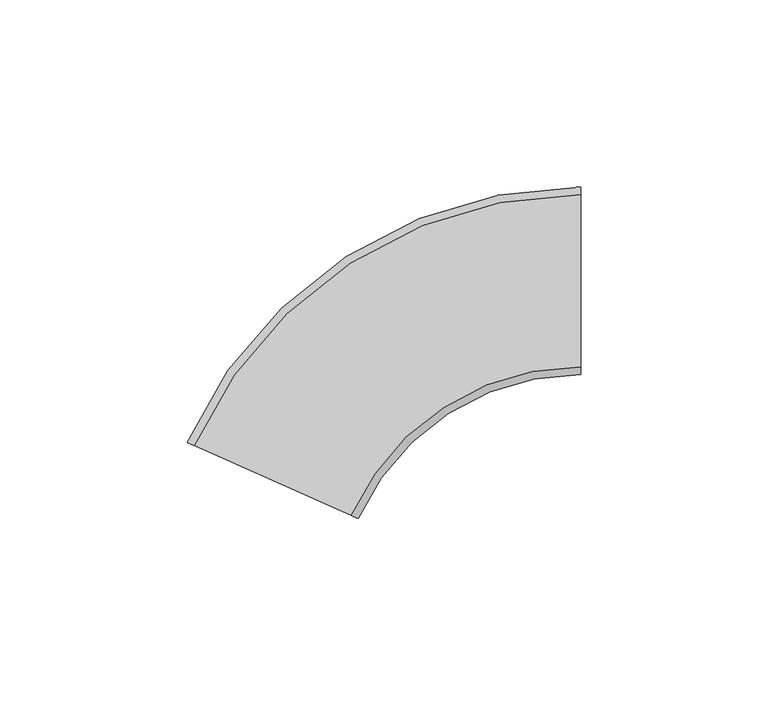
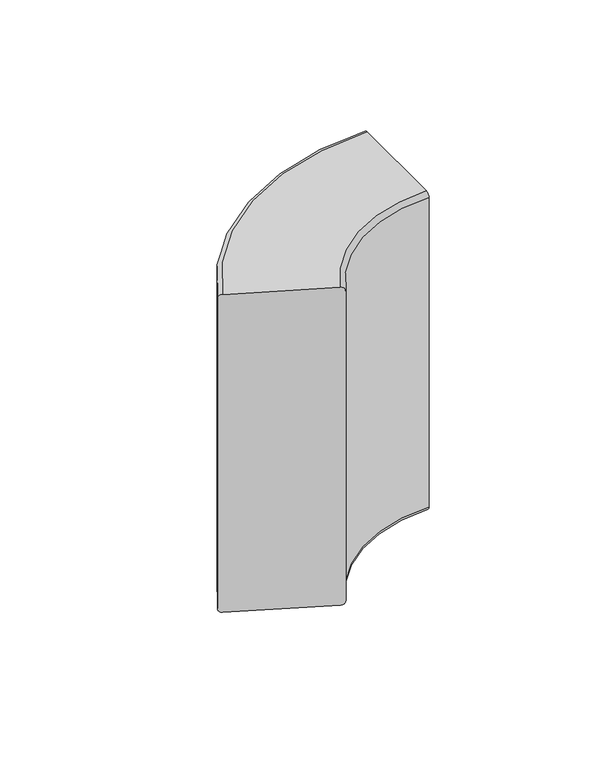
"""IFC4 building model written with IfcOpenShell, lengths in millimetres: duct fitting geometry, Угол внутренний переменный от 80° до 100° - для кабель-каналов DLP - белый : Угол внутренний переменный от 60° до 120° - для кабель-каналов DLP 50х150 - белый."""

from ifc_helpers import new_model, si_unit, point, frame, origin, place, context, project, spatial, polyline, circle_curve, ellipse_curve, trimmed, source, transform, mapped, element, save
from ifc_brep_helpers import plane_surface, cylinder_surface, revolved_surface, advanced_brep


def duct_fitting_362536db(model_context):
    return source(origin(), model_context, "Body", "AdvancedBrep", [
        advanced_brep(
        [(-13.2306367, -80.6450572, 75.0), (-15.0577276, -79.8315839, 73.0), (-15.0577276, -79.8315839, -73.0), (-13.2306367, -80.6450572, -75.0), (28.7924543, -99.3549428, -75.0), (30.6195453, -100.1684161, -73.0), (30.6195453, -100.1684161, 73.0), (28.7924543, -99.3549428, 75.0), (90.0, -13.6062979, 75.0), (90.0, -59.6062979, 75.0), (90.0, -61.6062979, 73.0), (90.0, -61.6062979, -73.0), (90.0, -59.6062979, -75.0), (90.0, -13.6062979, -75.0), (90.0, -11.6062979, -73.0), (90.0, -11.6062979, 73.0)],
        [
            (0, 1, circle_curve(frame((-13.2306367, -80.6450572, 73.0), z_axis=(-0.40673664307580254, -0.9135454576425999, 0.0), x_axis=(-0.9135454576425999, 0.40673664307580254, 0.0)), 2.0)),
            (1, 2),
            (2, 3, circle_curve(frame((-13.2306367, -80.6450572, -73.0), z_axis=(-0.40673664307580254, -0.9135454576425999, 0.0), x_axis=(-0.9135454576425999, 0.40673664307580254, 0.0)), 2.0)),
            (3, 4),
            (4, 5, circle_curve(frame((28.7924543, -99.3549428, -73.0), z_axis=(-0.40673664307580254, -0.9135454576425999, 0.0), x_axis=(-0.9135454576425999, 0.40673664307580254, 0.0)), 2.0)),
            (5, 6),
            (6, 7, circle_curve(frame((28.7924543, -99.3549428, 73.0), z_axis=(-0.40673664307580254, -0.9135454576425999, 0.0), x_axis=(-0.9135454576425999, 0.40673664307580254, 0.0)), 2.0)),
            (7, 0),
            (8, 9),
            (9, 10, circle_curve(frame((90.0, -59.6062979, 73.0), z_axis=(1.0, 0.0, 0.0), x_axis=(0.0, 1.0, 0.0)), 2.0)),
            (10, 11),
            (11, 12, circle_curve(frame((90.0, -59.6062979, -73.0), z_axis=(1.0, 0.0, 0.0), x_axis=(0.0, 1.0, 0.0)), 2.0)),
            (12, 13),
            (13, 14, circle_curve(frame((90.0, -13.6062979, -73.0), z_axis=(1.0, 0.0, 0.0), x_axis=(0.0, 1.0, 0.0)), 2.0)),
            (14, 15),
            (15, 8, circle_curve(frame((90.0, -13.6062979, 73.0), z_axis=(1.0, 0.0, 0.0), x_axis=(0.0, 1.0, 0.0)), 2.0)),
            (15, 1, circle_curve(frame((90.0, -126.6062979, 73.0), z_axis=(0.0, 0.0, 1.0), x_axis=(-0.9135454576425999, 0.4067366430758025, 0.0)), 115.0)),
            (0, 8, circle_curve(frame((90.0, -126.6062979, 75.0), z_axis=(0.0, 0.0, -1.0), x_axis=(-0.9135454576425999, 0.4067366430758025, 0.0)), 113.0)),
            (14, 2, circle_curve(frame((90.0, -126.6062979, -73.0), z_axis=(0.0, 0.0, 1.0), x_axis=(-0.9135454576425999, 0.4067366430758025, 0.0)), 115.0)),
            (13, 3, circle_curve(frame((90.0, -126.6062979, -75.0), z_axis=(0.0, 0.0, 1.0), x_axis=(-0.9135454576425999, 0.4067366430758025, 0.0)), 113.0)),
            (12, 4, circle_curve(frame((90.0, -126.6062979, -75.0), z_axis=(0.0, 0.0, 1.0), x_axis=(-0.9135454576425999, 0.4067366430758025, 0.0)), 67.0)),
            (11, 5, circle_curve(frame((90.0, -126.6062979, -73.0), z_axis=(0.0, 0.0, 1.0), x_axis=(-0.9135454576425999, 0.4067366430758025, 0.0)), 65.0)),
            (10, 6, circle_curve(frame((90.0, -126.6062979, 73.0), z_axis=(0.0, 0.0, 1.0), x_axis=(-0.9135454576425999, 0.4067366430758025, 0.0)), 65.0)),
            (9, 7, circle_curve(frame((90.0, -126.6062979, 75.0), z_axis=(0.0, 0.0, 1.0), x_axis=(-0.9135454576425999, 0.4067366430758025, 0.0)), 67.0)),
        ],
        [
            plane_surface(frame((7.7809088, -90.0, 0.0), z_axis=(-0.40673664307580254, -0.9135454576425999, 0.0), x_axis=(0.0, 0.0, 1.0))),
            plane_surface(frame((90.0, -36.6062979, 0.0), z_axis=(1.0, 0.0, 0.0), x_axis=(0.0, 0.0, 1.0))),
            revolved_surface(trimmed(ellipse_curve(frame((-13.2306367, -80.6450572, 73.0), z_axis=(-0.40673664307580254, -0.9135454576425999, 0.0), x_axis=(-0.9135454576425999, 0.40673664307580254, 0.0)), 2.0, 2.0), [point((-13.2306367, -80.6450572, 75.0))], [point((-15.0577276, -79.8315839, 73.0))], True, "CARTESIAN"), (90.0, -126.6062979, 0.0), (0.0, 0.0, -1.0)),
            cylinder_surface(frame((90.0, -126.6062979, 0.0), z_axis=(0.0, 0.0, -1.0), x_axis=(-0.9135454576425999, 0.4067366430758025, 0.0)), 115.0),
            revolved_surface(trimmed(ellipse_curve(frame((-13.2306367, -80.6450572, -73.0), z_axis=(-0.40673664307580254, -0.9135454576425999, 0.0), x_axis=(-0.9135454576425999, 0.40673664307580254, 0.0)), 2.0, 2.0), [point((-15.0577276, -79.8315839, -73.0))], [point((-13.2306367, -80.6450572, -75.0))], True, "CARTESIAN"), (90.0, -126.6062979, 0.0), (0.0, 0.0, -1.0)),
            plane_surface(frame((90.0, -126.6062979, -75.0), z_axis=(0.0, 0.0, -1.0), x_axis=(-0.9135454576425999, 0.4067366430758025, 0.0))),
            revolved_surface(trimmed(ellipse_curve(frame((28.7924543, -99.3549428, -73.0), z_axis=(-0.40673664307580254, -0.9135454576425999, 0.0), x_axis=(-0.9135454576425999, 0.40673664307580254, 0.0)), 2.0, 2.0), [point((28.7924543, -99.3549428, -75.0))], [point((30.6195453, -100.1684161, -73.0))], True, "CARTESIAN"), (90.0, -126.6062979, 0.0), (0.0, 0.0, -1.0)),
            revolved_surface(polyline([(30.61954525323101, -100.16841610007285, -73.0), (30.61954525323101, -100.16841610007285, 73.0)]), (90.0, -126.6062979, 0.0), (0.0, 0.0, -1.0)),
            revolved_surface(trimmed(ellipse_curve(frame((28.7924543, -99.3549428, 73.0), z_axis=(-0.40673664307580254, -0.9135454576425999, 0.0), x_axis=(-0.9135454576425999, 0.40673664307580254, 0.0)), 2.0, 2.0), [point((30.6195453, -100.1684161, 73.0))], [point((28.7924543, -99.3549428, 75.0))], True, "CARTESIAN"), (90.0, -126.6062979, 0.0), (0.0, 0.0, -1.0)),
            plane_surface(frame((90.0, -126.6062979, 75.0), z_axis=(0.0, 0.0, 1.0), x_axis=(-0.9135454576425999, 0.4067366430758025, 0.0))),
        ],
        [
            (0, [[1, 2, 3, 4, 5, 6, 7, 8]]),
            (1, [[9, 10, 11, 12, 13, 14, 15, 16]]),
            (2, [[17, -1, 18, -16]]),
            (3, [[19, -2, -17, -15]]),
            (4, [[20, -3, -19, -14]]),
            (5, [[21, -4, -20, -13]]),
            (6, [[22, -5, -21, -12]]),
            (7, [[23, -6, -22, -11]]),
            (8, [[24, -7, -23, -10]]),
            (9, [[-18, -8, -24, -9]]),
        ],
    ),
    ])


if __name__ == "__main__":
    model = new_model("IFC4")
    model_context = context("Model", 3, world=origin())
    ifc_project = project(units=[si_unit("LENGTHUNIT", "METRE", prefix="MILLI")], contexts=[model_context])
    site = spatial("IfcSite", under=ifc_project)
    building = spatial("IfcBuilding", under=site)
    placement = place(None, origin())
    duct_fitting_shape = duct_fitting_362536db(model_context)
    element("IfcDuctFitting", 1, ObjectType="Угол внутренний переменный от 80° до 100° - для кабель-каналов DLP - белый : Угол внутренний переменный от 60° до 120° - для кабель-каналов DLP 50х150 - белый", at=placement, inside=building, context=model_context, shape_type="MappedRepresentation", body=[
        mapped(duct_fitting_shape, transform((0.0, 0.0, 0.0), x_axis=(1.0, 0.0, 0.0), y_axis=(0.0, 1.0, 0.0), z_axis=(0.0, 0.0, 1.0))),
    ])
    save(model, "model.ifc")
